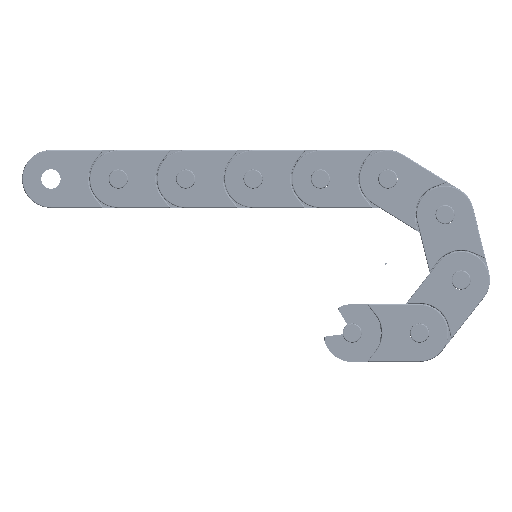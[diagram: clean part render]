
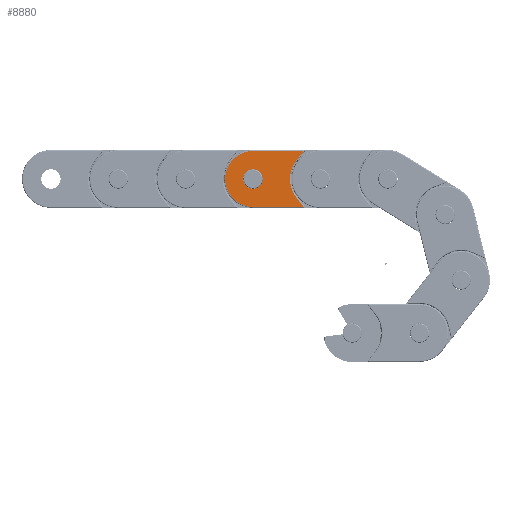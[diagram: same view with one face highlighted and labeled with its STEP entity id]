
A CAD part, left-side view. The second image highlights one B-rep face of the part: STEP entity #8880.
In plain terms, the highlighted free-form (B-spline) face has degree [1, 1] with [2, 2] control points.
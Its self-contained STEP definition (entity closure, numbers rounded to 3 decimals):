
#3748=CARTESIAN_POINT('',(125.0,12.85,15.));
#3749=VERTEX_POINT('',#3748);
#3750=CARTESIAN_POINT('',(125.0,17.9,15.));
#3751=DIRECTION('',(1.0,0.0,0.0));
#3752=DIRECTION('',(0.0,1.0,0.0));
#3753=AXIS2_PLACEMENT_3D('',#3750,#3751,#3752);
#3754=CIRCLE('',#3753,5.05);
#3755=EDGE_CURVE('',#3749,#3749,#3754,.T.);
#4320=CARTESIAN_POINT('',(125.0,-8.393,29.5));
#4321=VERTEX_POINT('',#4320);
#4375=CARTESIAN_POINT('',(125.0,-8.393,0.5));
#4376=VERTEX_POINT('',#4375);
#4420=CARTESIAN_POINT('',(125.0,-4.668,24.751));
#4421=VERTEX_POINT('',#4420);
#4429=CARTESIAN_POINT('',(125.0,-8.393,29.5));
#4430=DIRECTION('',(0.0,0.617,-0.787));
#4431=VECTOR('',#4430,6.035);
#4432=LINE('',#4429,#4431);
#4433=EDGE_CURVE('',#4321,#4421,#4432,.T.);
#4469=CARTESIAN_POINT('',(125.0,-4.668,5.249));
#4470=VERTEX_POINT('',#4469);
#4478=CARTESIAN_POINT('',(125.0,-17.1,15.));
#4479=DIRECTION('',(-1.0,0.0,0.0));
#4480=DIRECTION('',(0.0,1.,0.));
#4481=AXIS2_PLACEMENT_3D('',#4478,#4479,#4480);
#4482=CIRCLE('',#4481,15.8);
#4483=EDGE_CURVE('',#4421,#4470,#4482,.T.);
#4516=CARTESIAN_POINT('',(125.0,-4.668,5.249));
#4517=DIRECTION('',(0.0,-0.617,-0.787));
#4518=VECTOR('',#4517,6.035);
#4519=LINE('',#4516,#4518);
#4520=EDGE_CURVE('',#4470,#4376,#4519,.T.);
#4558=CARTESIAN_POINT('',(125.0,17.9,29.5));
#4559=VERTEX_POINT('',#4558);
#4576=CARTESIAN_POINT('',(125.0,17.9,29.5));
#4577=DIRECTION('',(0.0,-1.0,0.0));
#4578=VECTOR('',#4577,26.293);
#4579=LINE('',#4576,#4578);
#4580=EDGE_CURVE('',#4559,#4321,#4579,.T.);
#4638=CARTESIAN_POINT('',(125.0,17.9,0.5));
#4639=VERTEX_POINT('',#4638);
#4640=CARTESIAN_POINT('',(125.0,17.9,15.));
#4641=DIRECTION('',(1.0,0.0,0.0));
#4642=DIRECTION('',(0.0,1.0,0.0));
#4643=AXIS2_PLACEMENT_3D('',#4640,#4641,#4642);
#4644=CIRCLE('',#4643,14.5);
#4645=EDGE_CURVE('',#4639,#4559,#4644,.T.);
#4701=CARTESIAN_POINT('',(125.0,-8.393,0.5));
#4702=DIRECTION('',(0.0,1.0,0.0));
#4703=VECTOR('',#4702,26.293);
#4704=LINE('',#4701,#4703);
#4705=EDGE_CURVE('',#4376,#4639,#4704,.T.);
#8864=CARTESIAN_POINT('',(125.0,32.4,29.5));
#8865=CARTESIAN_POINT('',(125.0,-8.393,29.5));
#8866=CARTESIAN_POINT('',(125.0,32.4,0.5));
#8867=CARTESIAN_POINT('',(125.0,-8.393,0.5));
#8868=B_SPLINE_SURFACE_WITH_KNOTS('',1,1,((#8864,#8866),(#8865,#8867)),.UNSPECIFIED.,.F.,.F.,.U.,(2,2),(2,2),(0.0,40.793),(0.0,29.),.UNSPECIFIED.);
#8869=ORIENTED_EDGE('',*,*,#4705,.T.);
#8870=ORIENTED_EDGE('',*,*,#4645,.T.);
#8871=ORIENTED_EDGE('',*,*,#4580,.T.);
#8872=ORIENTED_EDGE('',*,*,#4433,.T.);
#8873=ORIENTED_EDGE('',*,*,#4483,.T.);
#8874=ORIENTED_EDGE('',*,*,#4520,.T.);
#8875=EDGE_LOOP('',(#8869,#8870,#8871,#8872,#8873,#8874));
#8876=FACE_OUTER_BOUND('',#8875,.T.);
#8877=ORIENTED_EDGE('',*,*,#3755,.F.);
#8878=EDGE_LOOP('',(#8877));
#8879=FACE_BOUND('',#8878,.T.);
#8880=ADVANCED_FACE('',(#8876,#8879),#8868,.T.);
